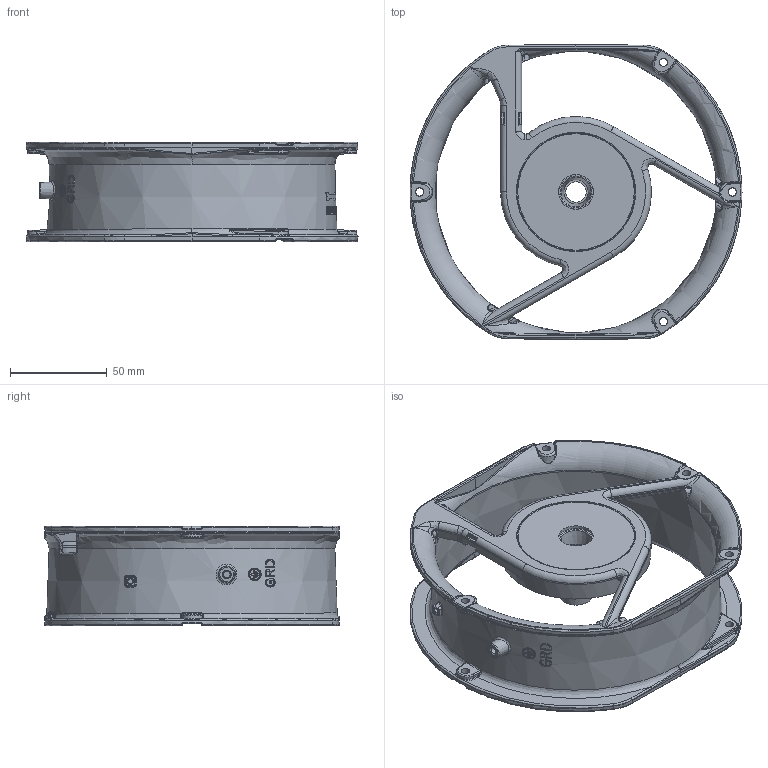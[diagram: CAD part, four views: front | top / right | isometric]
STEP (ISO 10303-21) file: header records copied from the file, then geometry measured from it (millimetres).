
FILE_DESCRIPTION(/* description */ (''),/* implementation_level */ '2;1');
FILE_NAME(/* name */ 'BL23638-17251三筋圆边.stp',/* time_stamp */ '2025-04-22T11:28:36+08:00',/* author */ (''),/* organization */ (''),/* preprocessor_version */ 'ST-DEVELOPER v16',/* originating_system */ 'SIEMENS PLM Software NX 10.0',/* authorisation */ '');
FILE_SCHEMA (('AUTOMOTIVE_DESIGN { 1 0 10303 214 3 1 1 1 }'));
Products named in the file (1): USER32EC86BD1mtf
Bounding box: 172 x 152.7 x 51.6 mm (x, y, z)
Volume: 76851.4 mm3; surface area: 85351.5 mm2
Topology: 1 solids, 1 shells, 1341 faces, 3357 edges, 2061 vertices
Faces by surface type: bspline 491, plane 418, cylinder 191, extrusion 102, torus 74, cone 63, revolution 2
Full cylindrical faces by diameter (mm): 2.5 x1, 3.5 x1, 4.3 x8
Entity records: 61279 total; most frequent: CARTESIAN_POINT 33971, ORIENTED_EDGE 6596, DIRECTION 3882, EDGE_CURVE 3298, VERTEX_POINT 2048, B_SPLINE_CURVE_WITH_KNOTS 1731, AXIS2_PLACEMENT_3D 1457, EDGE_LOOP 1456
